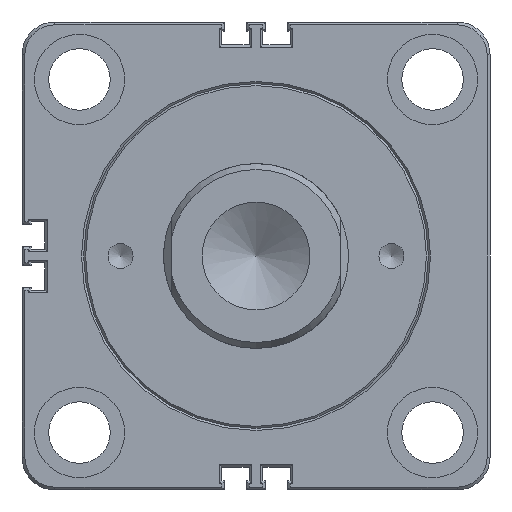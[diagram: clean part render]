
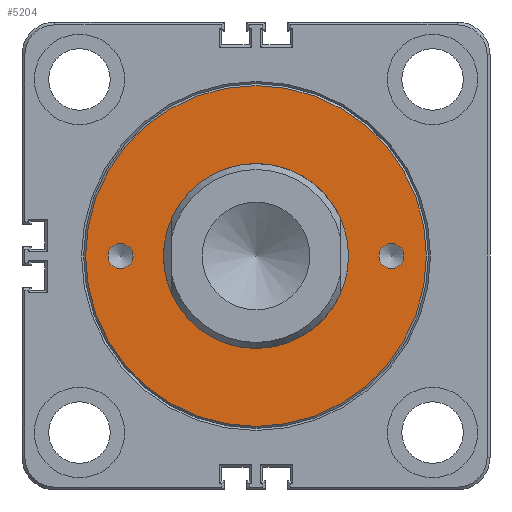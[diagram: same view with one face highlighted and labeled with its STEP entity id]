
A CAD part, front view. The second image highlights one B-rep face of the part: STEP entity #5204.
In plain terms, the highlighted planar face has unit normal (0, -1, 0).
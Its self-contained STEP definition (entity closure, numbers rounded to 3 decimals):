
#977=ORIENTED_EDGE('',*,*,#1932,.T.);
#978=ORIENTED_EDGE('',*,*,#1931,.F.);
#979=ORIENTED_EDGE('',*,*,#1930,.T.);
#980=ORIENTED_EDGE('',*,*,#1945,.T.);
#1930=EDGE_CURVE('',#2427,#2427,#2729,.T.);
#1931=EDGE_CURVE('',#2428,#2428,#2730,.T.);
#1932=EDGE_CURVE('',#2429,#2429,#2731,.T.);
#1945=EDGE_CURVE('',#2436,#2436,#2732,.T.);
#2427=VERTEX_POINT('',#6798);
#2428=VERTEX_POINT('',#6801);
#2429=VERTEX_POINT('',#6804);
#2436=VERTEX_POINT('',#6939);
#2729=CIRCLE('',#5454,3.05);
#2730=CIRCLE('',#5456,22.5);
#2731=CIRCLE('',#5458,3.05);
#2732=CIRCLE('',#5460,41.5);
#2816=EDGE_LOOP('',(#977));
#2817=EDGE_LOOP('',(#978));
#2818=EDGE_LOOP('',(#979));
#2819=EDGE_LOOP('',(#980));
#3102=FACE_BOUND('',#2816,.T.);
#3103=FACE_BOUND('',#2817,.T.);
#3104=FACE_BOUND('',#2818,.T.);
#3105=FACE_BOUND('',#2819,.T.);
#3366=PLANE('',#5459);
#5204=ADVANCED_FACE('',(#3102,#3103,#3104,#3105),#3366,.T.);
#5454=AXIS2_PLACEMENT_3D('',#6797,#5796,#5797);
#5456=AXIS2_PLACEMENT_3D('',#6800,#5800,#5801);
#5458=AXIS2_PLACEMENT_3D('',#6803,#5804,#5805);
#5459=AXIS2_PLACEMENT_3D('',#6937,#5812,#5813);
#5460=AXIS2_PLACEMENT_3D('',#6938,#5814,#5815);
#5796=DIRECTION('',(0.,1.,0.));
#5797=DIRECTION('',(0.,0.,-1.));
#5800=DIRECTION('',(0.,-1.,0.));
#5801=DIRECTION('',(1.,0.,0.));
#5804=DIRECTION('',(0.,1.,0.));
#5805=DIRECTION('',(0.,0.,-1.));
#5812=DIRECTION('',(0.,-1.,0.));
#5813=DIRECTION('',(1.,0.,0.));
#5814=DIRECTION('',(0.,-1.,0.));
#5815=DIRECTION('',(0.,0.,-1.));
#6797=CARTESIAN_POINT('',(33.,0.,0.));
#6798=CARTESIAN_POINT('',(33.,0.,-3.05));
#6800=CARTESIAN_POINT('',(0.,0.,0.));
#6801=CARTESIAN_POINT('',(22.5,0.,0.));
#6803=CARTESIAN_POINT('',(-33.,0.,0.));
#6804=CARTESIAN_POINT('',(-33.,0.,-3.05));
#6937=CARTESIAN_POINT('',(-49.,0.,49.));
#6938=CARTESIAN_POINT('',(0.,0.,0.));
#6939=CARTESIAN_POINT('',(0.,0.,-41.5));
